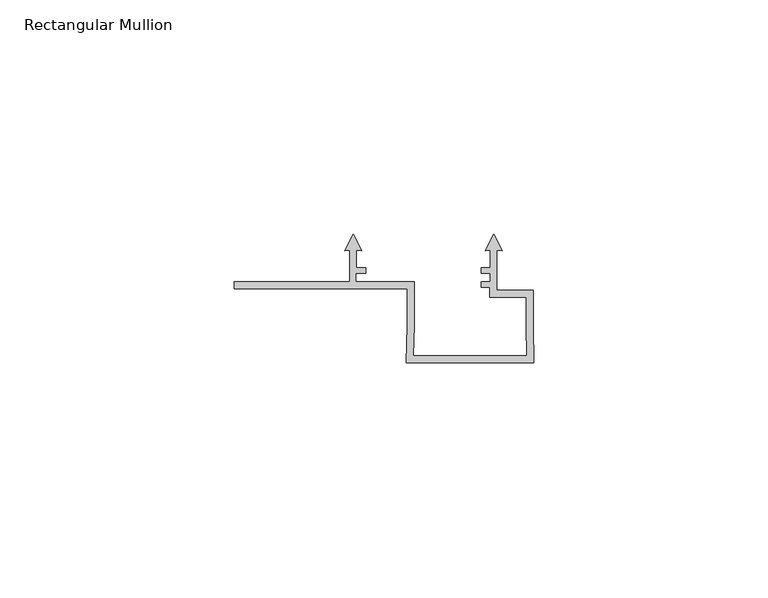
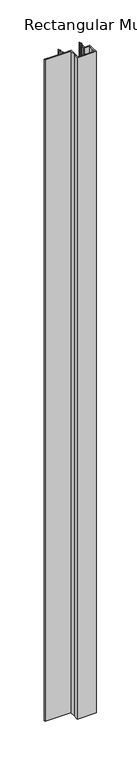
"""IFC4 building model written with IfcOpenShell, lengths in millimetres: member geometry, Rectangular Mullion : Renson_Linarte_LA-B16-01."""

from ifc_helpers import new_model, si_unit, frame, origin, place, context, project, spatial, polyline, outline, extrude, source, transform, mapped, element, save


def rectangular_mullion_de2d1e93(model_context):
    return source(origin(), model_context, "Body", "SweptSolid", [
        extrude(outline(polyline([(0.0, -52.6000001), (-27.279476, -52.6000001), (-27.1352165, -44.6039069), (-27.1353052, -36.7004291), (-64.1, -36.7004291), (-64.1, -35.2056679), (-39.3351463, -35.2056679), (-39.3351463, -28.5038207), (-40.4508816, -28.6014348), (-38.635145, -25.0378474), (-36.8194083, -28.6014348), (-37.9351461, -28.5038204), (-37.9351461, -32.1999997), (-35.942882, -32.1999997), (-35.942882, -33.4008281), (-38.0351451, -33.4008281), (-38.0351451, -35.1999997), (-25.6351455, -35.1999997), (-25.6351455, -44.6117002), (-25.7521689, -51.0999998), (-1.5181226, -51.0999998), (-1.6351135, -44.6153631), (-1.6351472, -38.5997951), (-9.4446143, -38.5997951), (-9.4446143, -36.4015214), (-11.3232242, -36.4015214), (-11.3232242, -35.1999954), (-9.344327, -35.1999954), (-9.344327, -33.4004386), (-11.3227094, -33.4004386), (-11.3227094, -32.198351), (-9.3351463, -32.198351), (-9.3351463, -28.5038206), (-10.4508827, -28.6014348), (-8.6351462, -25.0378474), (-6.8194096, -28.6014348), (-7.9351461, -28.5038205), (-7.9351461, -37.0995654), (-0.1443272, -37.0995654), (-0.1443272, -44.5977912), (0.0, -52.6000001)])), frame((0.0, 0.0, -1000.0), z_axis=(0.0, 0.0, 1.0), x_axis=(1.0, 0.0, 0.0)), (0.0, 0.0, 1.0), 1000.0),
    ])


if __name__ == "__main__":
    model = new_model("IFC4")
    model_context = context("Model", 3, world=origin())
    ifc_project = project(units=[si_unit("LENGTHUNIT", "METRE", prefix="MILLI")], contexts=[model_context])
    site = spatial("IfcSite", under=ifc_project)
    building = spatial("IfcBuilding", under=site)
    placement = place(None, origin())
    rectangular_mullion_shape = rectangular_mullion_de2d1e93(model_context)
    element("IfcMember", 1, ObjectType="Rectangular Mullion : Renson_Linarte_LA-B16-01", at=placement, inside=building, context=model_context, shape_type="MappedRepresentation", body=[
        mapped(rectangular_mullion_shape, transform((0.0, 0.0, 0.0), x_axis=(1.0, 0.0, 0.0), y_axis=(0.0, 1.0, 0.0), z_axis=(0.0, 0.0, 1.0))),
    ])
    save(model, "model.ifc")
